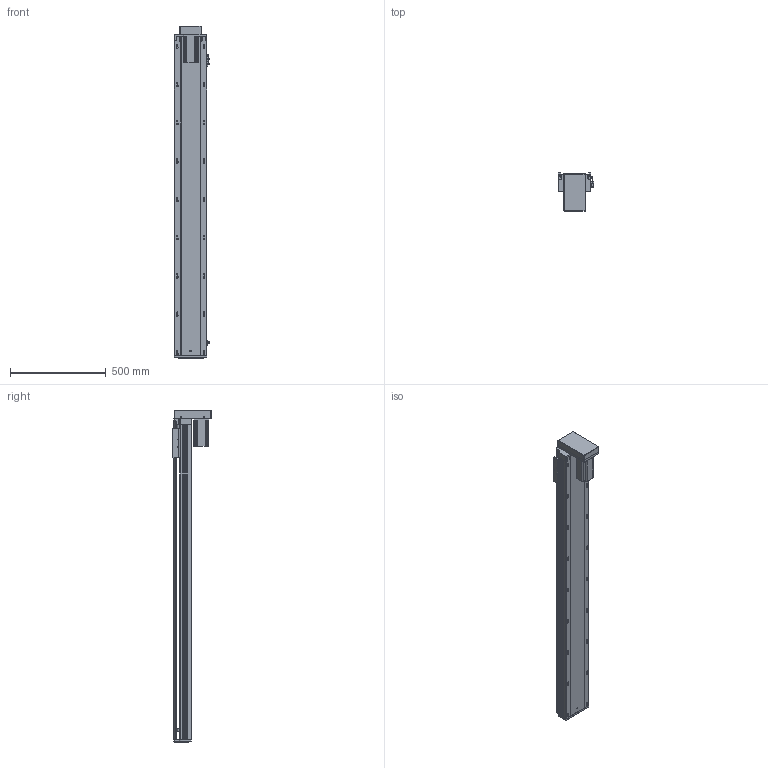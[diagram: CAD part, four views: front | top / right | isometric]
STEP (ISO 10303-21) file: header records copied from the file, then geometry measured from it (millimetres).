
FILE_DESCRIPTION (( 'STEP AP203' ), '1' );
FILE_NAME ('RY170-L2510-1400-BK.SLDASM_1400.step', '2021-03-12T09:25:30', ( '盈信电脑' ), ( '东莞市道滘镇水果街19号' ), 'SwSTEP 2.0', 'SolidWorks 2012', '' );
FILE_SCHEMA (( 'CONFIG_CONTROL_DESIGN' ));
Length unit declared in the file: millimetre
Products named in the file (14): RY170-L2510-1400-BK.SLDASM_1400; 滅袉蝶18-15; RY170-狟殏750W萇儂傷; RY170转折电机端支撑座(7004); 怢湛750W萇儂ㄗ80遺ㄘ; RY170狟殏萇儂欶; RY170-狟殏萇儂假蚾啣; 覜茼ん672; 滅袉蝶18-20; RY170綴裔啣; RY170外置感应片(200共用）; RY170-1400倰第菁釱-BK_1400; 改造-RY170铝滑块25丝杆螺母; RY170-1400倰第裔啣-BK_1400
Assembly tree (15 placements, depth 3):
  RY170-L2510-1400-BK.SLDASM_1400
    RY170-1400倰第菁釱-BK_1400
    改造-RY170铝滑块25丝杆螺母
    RY170-1400倰第裔啣-BK_1400
    RY170綴裔啣
    覜茼ん672  x3
    RY170外置感应片(200共用）
    滅袉蝶18-20
    RY170转折电机端支撑座(7004)
    RY170-狟殏750W萇儂傷
      RY170-狟殏萇儂假蚾啣
      RY170狟殏萇儂欶
      怢湛750W萇儂ㄗ80遺ㄘ
    滅袉蝶18-15
Bounding box: 183.7 x 200.8 x 1734.5 mm (x, y, z)
Volume: 8989408 mm3; surface area: 2871031.2 mm2
Topology: 14 solids, 14 shells, 2278 faces, 6557 edges, 4188 vertices
Faces by surface type: plane 1086, cylinder 959, cone 214, bspline 19
Entity records: 74130 total; most frequent: CARTESIAN_POINT 18083, ORIENTED_EDGE 11778, DIRECTION 10873, EDGE_CURVE 5889, VERTEX_POINT 3868, AXIS2_PLACEMENT_3D 3648, LINE 3577, VECTOR 3577
